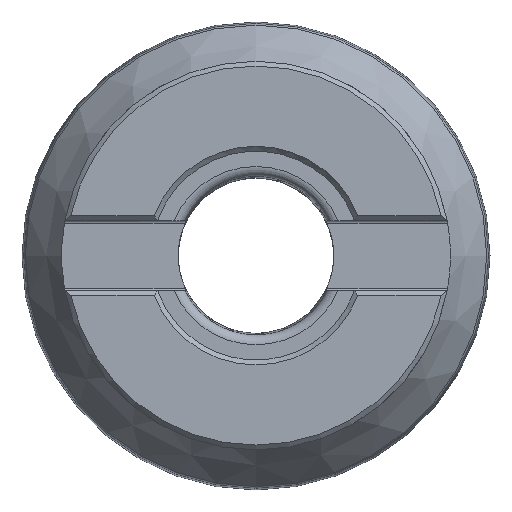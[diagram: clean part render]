
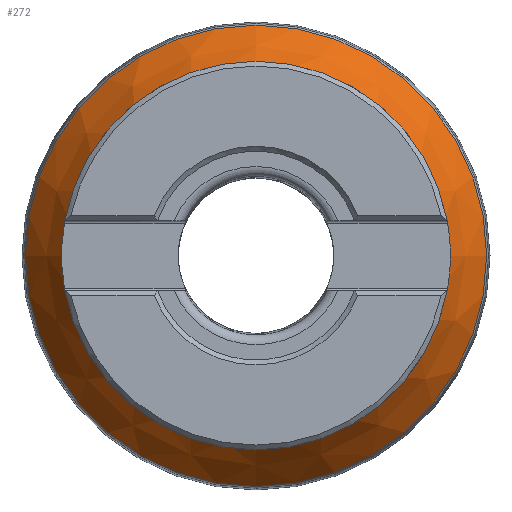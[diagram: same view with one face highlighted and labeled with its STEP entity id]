
A CAD part, top view. The second image highlights one B-rep face of the part: STEP entity #272.
In plain terms, the highlighted conical face has half-angle 33.629 degrees and reference radius 47.808 mm.
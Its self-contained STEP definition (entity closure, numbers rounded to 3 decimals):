
#162=CONICAL_SURFACE('',#894,47.808,33.629);
#216=FACE_BOUND('',#369,.T.);
#217=FACE_BOUND('',#370,.T.);
#272=ADVANCED_FACE('',(#216,#217),#162,.T.);
#369=EDGE_LOOP('',(#520));
#370=EDGE_LOOP('',(#521));
#520=ORIENTED_EDGE('',*,*,#765,.T.);
#521=ORIENTED_EDGE('',*,*,#766,.T.);
#694=VERTEX_POINT('',#1332);
#695=VERTEX_POINT('',#1334);
#765=EDGE_CURVE('',#694,#694,#840,.T.);
#766=EDGE_CURVE('',#695,#695,#841,.T.);
#840=CIRCLE('',#892,38.835);
#841=CIRCLE('',#893,47.473);
#892=AXIS2_PLACEMENT_3D('',#1331,#1022,#1023);
#893=AXIS2_PLACEMENT_3D('',#1333,#1024,#1025);
#894=AXIS2_PLACEMENT_3D('',#1335,#1026,#1027);
#1022=DIRECTION('',(0.,0.,-1.));
#1023=DIRECTION('',(-1.,0.,0.));
#1024=DIRECTION('',(0.,0.,1.));
#1025=DIRECTION('',(1.,0.,0.));
#1026=DIRECTION('',(0.,0.,-1.));
#1027=DIRECTION('',(1.,0.,0.));
#1331=CARTESIAN_POINT('',(0.,0.,-17.245));
#1332=CARTESIAN_POINT('',(-38.835,0.,-17.245));
#1333=CARTESIAN_POINT('',(0.,0.,-30.234));
#1334=CARTESIAN_POINT('',(47.473,0.,-30.234));
#1335=CARTESIAN_POINT('',(0.,0.,-30.737));
